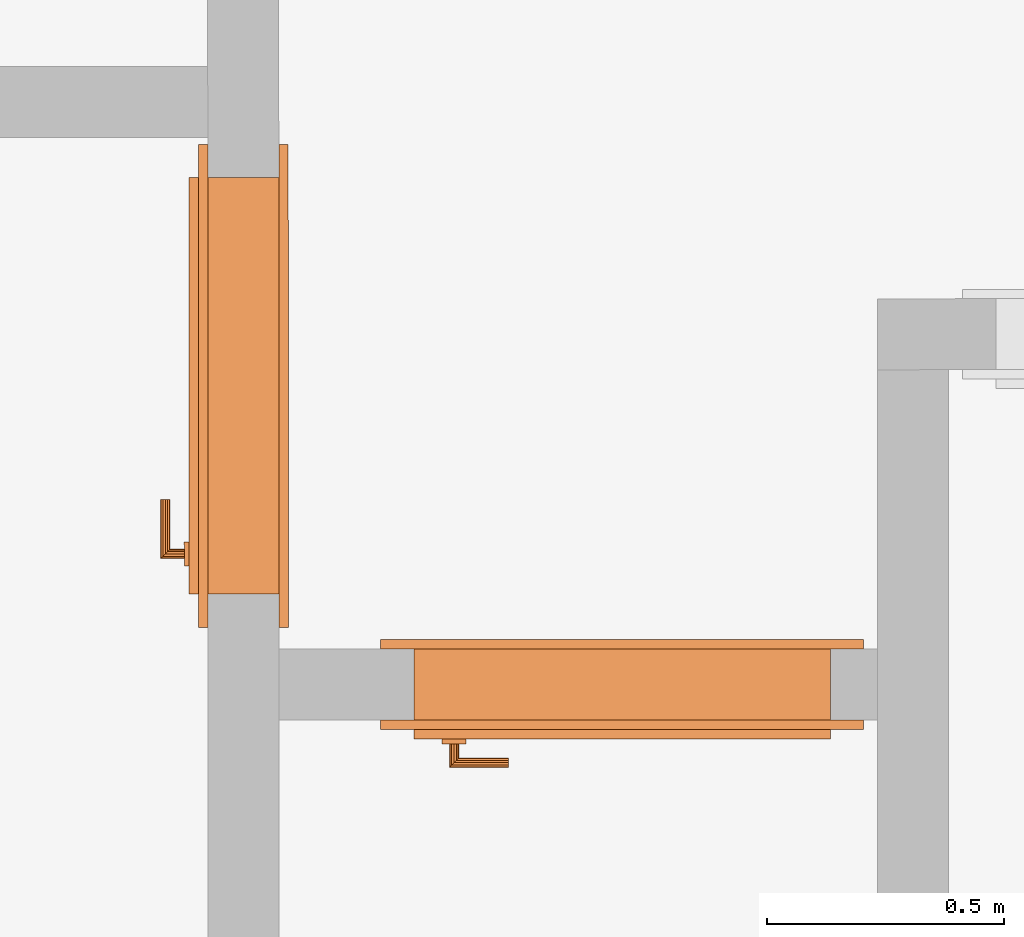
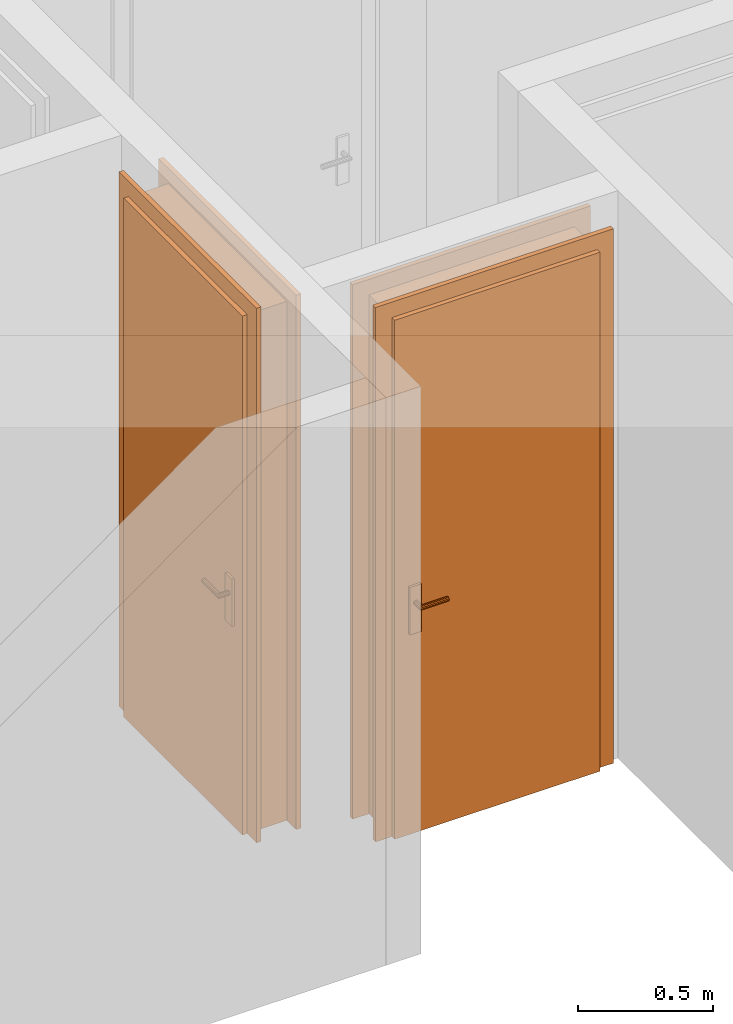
# One storey, part 4 of 9: 2 proxies.
"""IFC2X3 building model written with IfcOpenShell, lengths in metres."""

from ifc_helpers import new_model, entity, si_unit, converted_unit, derived_unit, direction, frame, origin, origin_with_axes, place, context, subcontext, project, spatial, faceted_brep, source, transform, mapped, element, save


model = new_model("IFC2X3")

# Units and contexts
model_context = context("Model", 3, precision=1e-05, world=origin(), true_north=direction((0.772621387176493, -0.634867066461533)))
body_context = subcontext(model_context, "Body", "Model", "MODEL_VIEW")
ifc_project = project(units=[si_unit("LENGTHUNIT", "METRE"), si_unit("AREAUNIT", "SQUARE_METRE"), si_unit("VOLUMEUNIT", "CUBIC_METRE"), si_unit("MASSUNIT", "GRAM", prefix="KILO"), converted_unit("PLANEANGLEUNIT", "DEGREE", entity("IfcPlaneAngleMeasure", 0.0174532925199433), si_unit("PLANEANGLEUNIT", "RADIAN"), dimensions=[0, 0, 0, 0, 0, 0, 0]), derived_unit("THERMALTRANSMITTANCEUNIT", [(si_unit("POWERUNIT", "WATT"), 1), (si_unit("THERMODYNAMICTEMPERATUREUNIT", "KELVIN"), -1), (si_unit("LENGTHUNIT", "METRE"), -2)]), derived_unit("VOLUMETRICFLOWRATEUNIT", [(si_unit("LENGTHUNIT", "METRE"), 3), (converted_unit("TIMEUNIT", "hour", entity("IfcTimeMeasure", 3600.0), si_unit("TIMEUNIT", "SECOND"), dimensions=[0, 0, 1, 0, 0, 0, 0]), -1), (si_unit("LENGTHUNIT", "METRE"), -1)])], contexts=[model_context])

# Site, building, storey
site_placement = place(None, origin())
site = spatial("IfcSite", under=ifc_project, at=site_placement, Name="Modelle auf dem Nullpunkt", CompositionType="ELEMENT")
building_placement = place(site_placement, origin())
building = spatial("IfcBuilding", under=site, at=building_placement, Name="I", CompositionType="ELEMENT")
storey_placement = place(building_placement, origin())
storey = spatial("IfcBuildingStorey", under=building, at=storey_placement, Name="1.OG", CompositionType="ELEMENT", Elevation=0.0)

# Proxies
shared_shape_1 = source(origin_with_axes(), body_context, "Body", "Brep", [
    faceted_brep([(0.950000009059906, 0.19000000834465, 2.35), (0.930000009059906, 0.19000000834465, 2.35), (0.930000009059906, 0.19000000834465, 0.0), (0.950000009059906, 0.19000000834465, 0.0), (0.950000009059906, 0.0, 0.0), (0.930000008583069, 0.0, 0.0), (0.930000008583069, 0.0, 2.35), (0.950000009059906, 0.0, 2.35)], [[[0, 1, 2, 3]], [[4, 5, 6, 7]], [[3, 4, 7, 0]], [[2, 5, 4, 3]], [[1, 6, 5, 2]], [[0, 7, 6, 1]]], orient=[[False], [False], [False], [False], [False], [False]]),
    faceted_brep([(0.950000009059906, 0.19000000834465, 2.42), (0.950000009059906, 0.19000000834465, 0.0), (1.02000000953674, 0.19000000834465, 0.0), (1.02000000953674, 0.19000000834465, 2.42), (0.950000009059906, 0.170000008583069, 0.0), (0.950000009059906, 0.170000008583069, 2.42), (1.02000000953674, 0.170000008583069, 2.42), (1.02000000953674, 0.170000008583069, 0.0)], [[[0, 1, 2, 3]], [[4, 5, 6, 7]], [[1, 0, 5, 4]], [[2, 1, 4, 7]], [[3, 2, 7, 6]], [[0, 3, 6, 5]]], orient=[[False], [False], [False], [False], [False], [False]]),
    faceted_brep([(0.950000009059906, 0.0199999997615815, 2.42), (0.950000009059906, 0.0199999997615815, 0.0), (1.02000001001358, 0.0199999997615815, 0.0), (1.02000001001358, 0.0199999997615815, 2.42), (0.950000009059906, 0.0, 0.0), (0.950000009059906, 0.0, 2.42), (1.02000000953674, 0.0, 2.42), (1.02000000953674, 0.0, 0.0)], [[[0, 1, 2, 3]], [[4, 5, 6, 7]], [[1, 0, 5, 4]], [[2, 1, 4, 7]], [[3, 2, 7, 6]], [[0, 3, 6, 5]]], orient=[[False], [False], [False], [False], [False], [False]]),
    faceted_brep([(0.0900000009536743, 0.19000000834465, 2.35), (0.0700000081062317, 0.19000000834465, 2.35), (0.0700000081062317, 0.19000000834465, 0.0), (0.0900000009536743, 0.19000000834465, 0.0), (0.0900000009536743, 0.0, 0.0), (0.0700000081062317, 0.0, 0.0), (0.0700000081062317, 0.0, 2.35), (0.0900000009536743, 0.0, 2.35)], [[[0, 1, 2, 3]], [[4, 5, 6, 7]], [[3, 4, 7, 0]], [[2, 5, 4, 3]], [[1, 6, 5, 2]], [[0, 7, 6, 1]]], orient=[[False], [False], [False], [False], [False], [False]]),
    faceted_brep([(0.0700000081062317, 0.19000000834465, 2.42), (0.0, 0.19000000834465, 2.42), (0.0, 0.19000000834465, 0.0), (0.0700000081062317, 0.19000000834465, 0.0), (0.0700000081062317, 0.170000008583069, 0.0), (0.0, 0.170000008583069, 0.0), (0.0, 0.170000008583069, 2.42), (0.0700000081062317, 0.170000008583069, 2.42)], [[[0, 1, 2, 3]], [[4, 5, 6, 7]], [[3, 4, 7, 0]], [[2, 5, 4, 3]], [[1, 6, 5, 2]], [[0, 7, 6, 1]]], orient=[[False], [False], [False], [False], [False], [False]]),
    faceted_brep([(0.0700000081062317, 0.0199999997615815, 2.42), (0.0, 0.0199999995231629, 2.42), (0.0, 0.0199999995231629, 0.0), (0.0700000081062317, 0.0199999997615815, 0.0), (0.0700000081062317, 0.0, 0.0), (0.0, 0.0, 0.0), (0.0, 0.0, 2.42), (0.0700000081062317, 0.0, 2.42)], [[[0, 1, 2, 3]], [[4, 5, 6, 7]], [[3, 4, 7, 0]], [[2, 5, 4, 3]], [[1, 6, 5, 2]], [[0, 7, 6, 1]]], orient=[[False], [False], [False], [False], [False], [False]]),
    faceted_brep([(0.930000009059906, 0.19000000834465, 2.35), (0.0900000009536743, 0.19000000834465, 2.35), (0.0900000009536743, 0.19000000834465, 2.33), (0.930000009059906, 0.19000000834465, 2.33), (0.930000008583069, 0.0, 2.33), (0.0900000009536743, 0.0, 2.33), (0.0900000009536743, 0.0, 2.35), (0.930000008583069, 0.0, 2.35)], [[[0, 1, 2, 3]], [[4, 5, 6, 7]], [[3, 4, 7, 0]], [[2, 5, 4, 3]], [[1, 6, 5, 2]], [[0, 7, 6, 1]]], orient=[[False], [False], [False], [False], [False], [False]]),
    faceted_brep([(0.950000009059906, 0.19000000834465, 2.42), (0.0700000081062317, 0.19000000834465, 2.42), (0.0700000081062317, 0.19000000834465, 2.35), (0.950000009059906, 0.19000000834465, 2.35), (0.950000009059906, 0.170000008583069, 2.35), (0.0700000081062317, 0.170000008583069, 2.35), (0.0700000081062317, 0.170000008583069, 2.42), (0.950000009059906, 0.170000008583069, 2.42)], [[[0, 1, 2, 3]], [[4, 5, 6, 7]], [[3, 4, 7, 0]], [[2, 5, 4, 3]], [[1, 6, 5, 2]], [[0, 7, 6, 1]]], orient=[[False], [False], [False], [False], [False], [False]]),
    faceted_brep([(0.950000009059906, 0.0199999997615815, 2.42), (0.0700000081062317, 0.0199999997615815, 2.42), (0.0700000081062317, 0.0199999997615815, 2.35), (0.950000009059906, 0.0199999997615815, 2.35), (0.950000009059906, 0.0, 2.35), (0.0700000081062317, 0.0, 2.35), (0.0700000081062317, 0.0, 2.42), (0.950000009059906, 0.0, 2.42)], [[[0, 1, 2, 3]], [[4, 5, 6, 7]], [[3, 4, 7, 0]], [[2, 5, 4, 3]], [[1, 6, 5, 2]], [[0, 7, 6, 1]]], orient=[[False], [False], [False], [False], [False], [False]]),
    faceted_brep([(0.950000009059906, 0.210000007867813, 2.35), (0.0700000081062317, 0.210000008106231, 2.35), (0.0700000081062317, 0.210000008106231, 0.0), (0.950000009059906, 0.210000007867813, 0.0), (0.950000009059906, 0.170000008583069, 0.0), (0.0700000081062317, 0.170000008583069, 0.0), (0.0700000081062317, 0.170000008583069, 2.35), (0.950000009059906, 0.170000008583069, 2.35)], [[[0, 1, 2, 3]], [[4, 5, 6, 7]], [[3, 4, 7, 0]], [[2, 5, 4, 3]], [[1, 6, 5, 2]], [[0, 7, 6, 1]]], orient=[[False], [False], [False], [False], [False], [False]]),
    faceted_brep([(0.890000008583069, 0.170000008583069, 1.125), (0.840000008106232, 0.170000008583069, 1.125), (0.840000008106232, 0.170000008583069, 0.91), (0.890000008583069, 0.170000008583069, 0.91), (0.890000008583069, 0.160000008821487, 0.91), (0.840000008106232, 0.160000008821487, 0.91), (0.840000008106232, 0.160000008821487, 1.125), (0.890000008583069, 0.160000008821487, 1.125)], [[[0, 1, 2, 3]], [[4, 5, 6, 7]], [[3, 4, 7, 0]], [[2, 5, 4, 3]], [[1, 6, 5, 2]], [[0, 7, 6, 1]]], orient=[[False], [False], [False], [False], [False], [False]]),
    faceted_brep([(0.865000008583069, 0.160000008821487, 1.06), (0.860000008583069, 0.160000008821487, 1.05866025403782), (0.856339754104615, 0.160000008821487, 1.055), (0.855000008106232, 0.160000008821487, 1.05), (0.856339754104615, 0.160000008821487, 1.045), (0.860000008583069, 0.160000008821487, 1.04133974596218), (0.865000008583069, 0.160000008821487, 1.04), (0.870000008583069, 0.160000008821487, 1.04133974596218), (0.873660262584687, 0.160000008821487, 1.045), (0.875000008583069, 0.160000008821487, 1.05), (0.873660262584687, 0.160000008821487, 1.055), (0.870000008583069, 0.160000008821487, 1.05866025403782), (0.870000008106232, 0.115000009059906, 1.05866025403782), (0.865000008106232, 0.120000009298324, 1.06), (0.873660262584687, 0.111339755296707, 1.055), (0.875000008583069, 0.110000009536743, 1.05), (0.873660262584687, 0.111339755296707, 1.045), (0.870000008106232, 0.115000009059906, 1.04133974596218), (0.865000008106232, 0.120000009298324, 1.04), (0.860000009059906, 0.125000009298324, 1.04133974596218), (0.856339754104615, 0.128660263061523, 1.045), (0.855000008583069, 0.130000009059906, 1.05), (0.856339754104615, 0.128660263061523, 1.055), (0.860000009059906, 0.125000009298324, 1.05866025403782), (0.750000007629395, 0.120000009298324, 1.06), (0.750000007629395, 0.115000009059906, 1.05866025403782), (0.750000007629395, 0.111339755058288, 1.055), (0.750000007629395, 0.110000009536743, 1.05), (0.750000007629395, 0.111339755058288, 1.045), (0.750000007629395, 0.115000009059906, 1.04133974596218), (0.750000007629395, 0.120000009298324, 1.04), (0.750000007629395, 0.125000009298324, 1.04133974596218), (0.750000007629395, 0.128660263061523, 1.045), (0.750000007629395, 0.130000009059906, 1.05), (0.750000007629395, 0.128660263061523, 1.055), (0.750000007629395, 0.125000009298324, 1.05866025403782)], [[[0, 1, 2, 3, 4, 5, 6, 7, 8, 9, 10, 11]], [[0, 11, 12, 13]], [[11, 10, 14, 12]], [[10, 9, 15, 14]], [[9, 8, 16, 15]], [[8, 7, 17, 16]], [[7, 6, 18, 17]], [[6, 5, 19, 18]], [[5, 4, 20, 19]], [[4, 3, 21, 20]], [[3, 2, 22, 21]], [[2, 1, 23, 22]], [[1, 0, 13, 23]], [[24, 25, 26, 27, 28, 29, 30, 31, 32, 33, 34, 35]], [[13, 12, 25, 24]], [[12, 14, 26, 25]], [[14, 15, 27, 26]], [[15, 16, 28, 27]], [[16, 17, 29, 28]], [[17, 18, 30, 29]], [[18, 19, 31, 30]], [[19, 20, 32, 31]], [[20, 21, 33, 32]], [[21, 22, 34, 33]], [[22, 23, 35, 34]], [[23, 13, 24, 35]]], orient=[[False], [False], [False], [False], [False], [False], [False], [False], [False], [False], [False], [False], [False], [False], [False], [False], [False], [False], [False], [False], [False], [False], [False], [False], [False], [False]]),
    faceted_brep([(0.890000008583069, 0.210000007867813, 1.125), (0.890000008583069, 0.210000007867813, 0.91), (0.840000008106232, 0.210000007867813, 0.91), (0.840000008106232, 0.210000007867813, 1.125), (0.890000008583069, 0.220000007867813, 0.91), (0.890000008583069, 0.220000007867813, 1.125), (0.840000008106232, 0.220000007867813, 1.125), (0.840000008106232, 0.220000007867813, 0.91)], [[[0, 1, 2, 3]], [[4, 5, 6, 7]], [[1, 0, 5, 4]], [[2, 1, 4, 7]], [[3, 2, 7, 6]], [[0, 3, 6, 5]]], orient=[[False], [False], [False], [False], [False], [False]]),
    faceted_brep([(0.865000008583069, 0.220000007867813, 1.06), (0.870000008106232, 0.220000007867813, 1.05866025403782), (0.873660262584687, 0.220000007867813, 1.055), (0.875000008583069, 0.220000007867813, 1.05), (0.873660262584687, 0.220000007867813, 1.045), (0.870000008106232, 0.220000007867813, 1.04133974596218), (0.865000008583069, 0.220000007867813, 1.04), (0.860000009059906, 0.220000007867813, 1.04133974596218), (0.856339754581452, 0.220000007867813, 1.045), (0.855000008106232, 0.220000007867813, 1.05), (0.856339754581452, 0.220000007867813, 1.055), (0.860000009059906, 0.220000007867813, 1.05866025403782), (0.865000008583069, 0.260000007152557, 1.06), (0.870000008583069, 0.265000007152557, 1.05866025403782), (0.873660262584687, 0.268660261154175, 1.055), (0.875000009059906, 0.270000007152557, 1.05), (0.873660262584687, 0.268660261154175, 1.045), (0.870000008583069, 0.265000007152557, 1.04133974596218), (0.865000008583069, 0.260000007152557, 1.04), (0.860000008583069, 0.255000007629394, 1.04133974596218), (0.856339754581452, 0.251339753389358, 1.045), (0.855000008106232, 0.250000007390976, 1.05), (0.856339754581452, 0.251339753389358, 1.055), (0.860000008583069, 0.255000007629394, 1.05866025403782), (0.750000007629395, 0.260000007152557, 1.06), (0.750000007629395, 0.255000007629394, 1.05866025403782), (0.750000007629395, 0.251339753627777, 1.055), (0.750000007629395, 0.250000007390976, 1.05), (0.750000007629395, 0.251339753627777, 1.045), (0.750000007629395, 0.255000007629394, 1.04133974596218), (0.750000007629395, 0.260000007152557, 1.04), (0.750000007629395, 0.265000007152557, 1.04133974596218), (0.750000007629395, 0.268660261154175, 1.045), (0.750000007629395, 0.270000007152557, 1.05), (0.750000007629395, 0.268660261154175, 1.055), (0.750000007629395, 0.265000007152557, 1.05866025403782)], [[[0, 1, 2, 3, 4, 5, 6, 7, 8, 9, 10, 11]], [[0, 12, 13, 1]], [[1, 13, 14, 2]], [[2, 14, 15, 3]], [[3, 15, 16, 4]], [[4, 16, 17, 5]], [[5, 17, 18, 6]], [[6, 18, 19, 7]], [[7, 19, 20, 8]], [[8, 20, 21, 9]], [[9, 21, 22, 10]], [[10, 22, 23, 11]], [[11, 23, 12, 0]], [[24, 25, 26, 27, 28, 29, 30, 31, 32, 33, 34, 35]], [[12, 24, 35, 13]], [[13, 35, 34, 14]], [[14, 34, 33, 15]], [[15, 33, 32, 16]], [[16, 32, 31, 17]], [[17, 31, 30, 18]], [[18, 30, 29, 19]], [[19, 29, 28, 20]], [[20, 28, 27, 21]], [[21, 27, 26, 22]], [[22, 26, 25, 23]], [[23, 25, 24, 12]]], orient=[[False], [False], [False], [False], [False], [False], [False], [False], [False], [False], [False], [False], [False], [False], [False], [False], [False], [False], [False], [False], [False], [False], [False], [False], [False], [False]]),
])
proxy_1_placement = place(storey_placement, frame((33.5238810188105, -3.33191685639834, 438.82), z_axis=(0.0, 0.0, 1.0), x_axis=(-0.999999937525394, -0.000353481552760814, 0.0)))
element("IfcBuildingElementProxy", 1, at=proxy_1_placement, inside=storey, Name="1flg Weiß UZ außen", context=body_context, shape_type="MappedRepresentation", body=[
    mapped(shared_shape_1, transform((0.0, 0.0, 0.0), x_axis=(1.0, 0.0, 0.0), y_axis=(0.0, 1.0, 0.0), z_axis=(0.0, 0.0, 1.0), scale=1.0)),
])
shared_shape_2 = source(origin_with_axes(), body_context, "Body", "Brep", [
    faceted_brep([(0.0700000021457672, 0.190000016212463, 2.35), (0.0700000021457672, 0.190000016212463, 0.0), (0.0900000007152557, 0.190000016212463, 0.0), (0.0900000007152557, 0.190000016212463, 2.35), (0.0700000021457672, 0.0, 0.0), (0.0700000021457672, 0.0, 2.35), (0.0900000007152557, 0.0, 2.35), (0.0900000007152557, 0.0, 0.0)], [[[0, 1, 2, 3]], [[4, 5, 6, 7]], [[1, 0, 5, 4]], [[2, 1, 4, 7]], [[3, 2, 7, 6]], [[0, 3, 6, 5]]], orient=[[False], [False], [False], [False], [False], [False]]),
    faceted_brep([(0.0700000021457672, 0.190000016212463, 2.42), (0.0, 0.1900000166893, 2.42), (0.0, 0.1900000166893, 0.0), (0.0700000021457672, 0.190000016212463, 0.0), (0.0700000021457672, 0.170000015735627, 0.0), (0.0, 0.170000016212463, 0.0), (0.0, 0.170000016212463, 2.42), (0.0700000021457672, 0.170000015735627, 2.42)], [[[0, 1, 2, 3]], [[4, 5, 6, 7]], [[3, 4, 7, 0]], [[2, 5, 4, 3]], [[1, 6, 5, 2]], [[0, 7, 6, 1]]], orient=[[False], [False], [False], [False], [False], [False]]),
    faceted_brep([(0.0700000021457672, 0.0200000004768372, 2.42), (0.0, 0.0200000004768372, 2.42), (0.0, 0.0200000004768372, 0.0), (0.0700000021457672, 0.0200000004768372, 0.0), (0.0700000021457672, 0.0, 0.0), (0.0, 0.0, 0.0), (0.0, 0.0, 2.42), (0.0700000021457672, 0.0, 2.42)], [[[0, 1, 2, 3]], [[4, 5, 6, 7]], [[3, 4, 7, 0]], [[2, 5, 4, 3]], [[1, 6, 5, 2]], [[0, 7, 6, 1]]], orient=[[False], [False], [False], [False], [False], [False]]),
    faceted_brep([(0.93000001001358, 0.1900000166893, 2.35), (0.93000001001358, 0.1900000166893, 0.0), (0.950000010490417, 0.1900000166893, 0.0), (0.950000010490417, 0.1900000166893, 2.35), (0.93000001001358, 0.0, 0.0), (0.93000001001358, 0.0, 2.35), (0.950000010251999, 0.0, 2.35), (0.950000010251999, 0.0, 0.0)], [[[0, 1, 2, 3]], [[4, 5, 6, 7]], [[1, 0, 5, 4]], [[2, 1, 4, 7]], [[3, 2, 7, 6]], [[0, 3, 6, 5]]], orient=[[False], [False], [False], [False], [False], [False]]),
    faceted_brep([(0.950000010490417, 0.1900000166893, 2.42), (0.950000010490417, 0.1900000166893, 0.0), (1.02000001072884, 0.190000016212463, 0.0), (1.02000001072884, 0.190000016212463, 2.42), (0.950000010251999, 0.170000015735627, 0.0), (0.950000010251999, 0.170000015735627, 2.42), (1.02000001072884, 0.170000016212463, 2.42), (1.02000001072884, 0.170000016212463, 0.0)], [[[0, 1, 2, 3]], [[4, 5, 6, 7]], [[1, 0, 5, 4]], [[2, 1, 4, 7]], [[3, 2, 7, 6]], [[0, 3, 6, 5]]], orient=[[False], [False], [False], [False], [False], [False]]),
    faceted_brep([(0.950000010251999, 0.0200000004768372, 2.42), (0.950000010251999, 0.0200000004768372, 0.0), (1.02000001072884, 0.0200000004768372, 0.0), (1.02000001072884, 0.0200000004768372, 2.42), (0.950000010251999, 0.0, 0.0), (0.950000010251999, 0.0, 2.42), (1.02000001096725, 0.0, 2.42), (1.02000001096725, 0.0, 0.0)], [[[0, 1, 2, 3]], [[4, 5, 6, 7]], [[1, 0, 5, 4]], [[2, 1, 4, 7]], [[3, 2, 7, 6]], [[0, 3, 6, 5]]], orient=[[False], [False], [False], [False], [False], [False]]),
    faceted_brep([(0.0900000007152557, 0.190000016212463, 2.35), (0.0900000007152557, 0.190000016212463, 2.33), (0.93000001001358, 0.1900000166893, 2.33), (0.93000001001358, 0.1900000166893, 2.35), (0.0900000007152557, 0.0, 2.33), (0.0900000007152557, 0.0, 2.35), (0.93000001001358, 0.0, 2.35), (0.93000001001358, 0.0, 2.33)], [[[0, 1, 2, 3]], [[4, 5, 6, 7]], [[1, 0, 5, 4]], [[2, 1, 4, 7]], [[3, 2, 7, 6]], [[0, 3, 6, 5]]], orient=[[False], [False], [False], [False], [False], [False]]),
    faceted_brep([(0.0700000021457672, 0.190000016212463, 2.42), (0.0700000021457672, 0.190000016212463, 2.35), (0.950000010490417, 0.1900000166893, 2.35), (0.950000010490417, 0.1900000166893, 2.42), (0.0700000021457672, 0.170000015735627, 2.35), (0.0700000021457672, 0.170000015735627, 2.42), (0.950000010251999, 0.170000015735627, 2.42), (0.950000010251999, 0.170000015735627, 2.35)], [[[0, 1, 2, 3]], [[4, 5, 6, 7]], [[1, 0, 5, 4]], [[2, 1, 4, 7]], [[3, 2, 7, 6]], [[0, 3, 6, 5]]], orient=[[False], [False], [False], [False], [False], [False]]),
    faceted_brep([(0.0700000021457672, 0.0200000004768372, 2.42), (0.0700000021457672, 0.0200000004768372, 2.35), (0.950000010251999, 0.0200000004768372, 2.35), (0.950000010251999, 0.0200000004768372, 2.42), (0.0700000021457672, 0.0, 2.35), (0.0700000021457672, 0.0, 2.42), (0.950000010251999, 0.0, 2.42), (0.950000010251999, 0.0, 2.35)], [[[0, 1, 2, 3]], [[4, 5, 6, 7]], [[1, 0, 5, 4]], [[2, 1, 4, 7]], [[3, 2, 7, 6]], [[0, 3, 6, 5]]], orient=[[False], [False], [False], [False], [False], [False]]),
    faceted_brep([(0.0700000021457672, 0.210000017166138, 2.35), (0.0700000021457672, 0.210000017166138, 0.0), (0.950000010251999, 0.210000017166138, 0.0), (0.950000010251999, 0.210000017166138, 2.35), (0.0700000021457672, 0.170000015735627, 0.0), (0.0700000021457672, 0.170000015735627, 2.35), (0.950000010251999, 0.170000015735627, 2.35), (0.950000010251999, 0.170000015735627, 0.0)], [[[0, 1, 2, 3]], [[4, 5, 6, 7]], [[1, 0, 5, 4]], [[2, 1, 4, 7]], [[3, 2, 7, 6]], [[0, 3, 6, 5]]], orient=[[False], [False], [False], [False], [False], [False]]),
    faceted_brep([(0.130000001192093, 0.170000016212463, 1.125), (0.130000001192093, 0.170000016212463, 0.91), (0.180000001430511, 0.170000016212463, 0.91), (0.180000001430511, 0.170000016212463, 1.125), (0.130000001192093, 0.16000001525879, 0.91), (0.130000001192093, 0.16000001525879, 1.125), (0.180000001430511, 0.160000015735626, 1.125), (0.180000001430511, 0.160000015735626, 0.91)], [[[0, 1, 2, 3]], [[4, 5, 6, 7]], [[1, 0, 5, 4]], [[2, 1, 4, 7]], [[3, 2, 7, 6]], [[0, 3, 6, 5]]], orient=[[False], [False], [False], [False], [False], [False]]),
    faceted_brep([(0.155000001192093, 0.160000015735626, 1.06), (0.150000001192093, 0.16000001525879, 1.05866025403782), (0.146339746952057, 0.160000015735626, 1.055), (0.145000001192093, 0.160000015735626, 1.05), (0.146339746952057, 0.160000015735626, 1.045), (0.150000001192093, 0.16000001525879, 1.04133974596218), (0.155000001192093, 0.160000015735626, 1.04), (0.160000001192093, 0.160000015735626, 1.04133974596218), (0.163660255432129, 0.160000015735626, 1.045), (0.165000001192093, 0.160000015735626, 1.05), (0.163660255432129, 0.160000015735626, 1.055), (0.160000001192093, 0.160000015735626, 1.05866025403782), (0.155000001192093, 0.120000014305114, 1.06), (0.150000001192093, 0.115000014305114, 1.05866025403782), (0.146339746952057, 0.111339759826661, 1.055), (0.145000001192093, 0.110000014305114, 1.05), (0.146339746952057, 0.111339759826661, 1.045), (0.150000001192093, 0.115000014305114, 1.04133974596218), (0.155000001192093, 0.120000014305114, 1.04), (0.160000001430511, 0.125000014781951, 1.04133974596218), (0.163660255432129, 0.12866026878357, 1.045), (0.165000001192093, 0.130000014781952, 1.05), (0.163660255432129, 0.12866026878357, 1.055), (0.160000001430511, 0.125000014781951, 1.05866025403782), (0.270000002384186, 0.120000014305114, 1.06), (0.270000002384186, 0.125000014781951, 1.05866025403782), (0.270000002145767, 0.12866026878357, 1.055), (0.270000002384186, 0.130000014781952, 1.05), (0.270000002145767, 0.12866026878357, 1.045), (0.270000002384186, 0.125000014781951, 1.04133974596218), (0.270000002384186, 0.120000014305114, 1.04), (0.270000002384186, 0.115000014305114, 1.04133974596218), (0.270000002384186, 0.111339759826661, 1.045), (0.270000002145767, 0.110000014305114, 1.05), (0.270000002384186, 0.111339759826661, 1.055), (0.270000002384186, 0.115000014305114, 1.05866025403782)], [[[0, 1, 2, 3, 4, 5, 6, 7, 8, 9, 10, 11]], [[0, 12, 13, 1]], [[1, 13, 14, 2]], [[2, 14, 15, 3]], [[3, 15, 16, 4]], [[4, 16, 17, 5]], [[5, 17, 18, 6]], [[6, 18, 19, 7]], [[7, 19, 20, 8]], [[8, 20, 21, 9]], [[9, 21, 22, 10]], [[10, 22, 23, 11]], [[11, 23, 12, 0]], [[24, 25, 26, 27, 28, 29, 30, 31, 32, 33, 34, 35]], [[12, 24, 35, 13]], [[13, 35, 34, 14]], [[14, 34, 33, 15]], [[15, 33, 32, 16]], [[16, 32, 31, 17]], [[17, 31, 30, 18]], [[18, 30, 29, 19]], [[19, 29, 28, 20]], [[20, 28, 27, 21]], [[21, 27, 26, 22]], [[22, 26, 25, 23]], [[23, 25, 24, 12]]], orient=[[False], [False], [False], [False], [False], [False], [False], [False], [False], [False], [False], [False], [False], [False], [False], [False], [False], [False], [False], [False], [False], [False], [False], [False], [False], [False]]),
    faceted_brep([(0.130000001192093, 0.210000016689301, 1.125), (0.180000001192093, 0.210000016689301, 1.125), (0.180000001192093, 0.210000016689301, 0.91), (0.130000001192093, 0.210000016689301, 0.91), (0.130000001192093, 0.220000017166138, 0.91), (0.180000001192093, 0.220000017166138, 0.91), (0.180000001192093, 0.220000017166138, 1.125), (0.130000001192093, 0.220000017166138, 1.125)], [[[0, 1, 2, 3]], [[4, 5, 6, 7]], [[3, 4, 7, 0]], [[2, 5, 4, 3]], [[1, 6, 5, 2]], [[0, 7, 6, 1]]], orient=[[False], [False], [False], [False], [False], [False]]),
    faceted_brep([(0.155000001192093, 0.220000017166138, 1.06), (0.160000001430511, 0.220000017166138, 1.05866025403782), (0.163660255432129, 0.220000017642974, 1.055), (0.165000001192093, 0.220000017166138, 1.05), (0.163660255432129, 0.220000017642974, 1.045), (0.160000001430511, 0.220000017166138, 1.04133974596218), (0.155000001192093, 0.220000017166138, 1.04), (0.150000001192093, 0.220000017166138, 1.04133974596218), (0.146339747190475, 0.220000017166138, 1.045), (0.145000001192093, 0.220000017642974, 1.05), (0.146339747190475, 0.220000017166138, 1.055), (0.150000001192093, 0.220000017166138, 1.05866025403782), (0.150000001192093, 0.26500001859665, 1.05866025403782), (0.155000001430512, 0.26000001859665, 1.06), (0.146339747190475, 0.268660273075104, 1.055), (0.145000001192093, 0.270000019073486, 1.05), (0.146339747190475, 0.268660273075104, 1.045), (0.150000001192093, 0.26500001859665, 1.04133974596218), (0.155000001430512, 0.26000001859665, 1.04), (0.160000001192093, 0.25500001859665, 1.04133974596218), (0.163660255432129, 0.251339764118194, 1.045), (0.165000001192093, 0.250000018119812, 1.05), (0.163660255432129, 0.251339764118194, 1.055), (0.160000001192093, 0.25500001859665, 1.05866025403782), (0.270000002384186, 0.26000001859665, 1.06), (0.270000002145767, 0.26500001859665, 1.05866025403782), (0.270000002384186, 0.268660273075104, 1.055), (0.270000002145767, 0.270000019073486, 1.05), (0.270000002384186, 0.268660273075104, 1.045), (0.270000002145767, 0.26500001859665, 1.04133974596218), (0.270000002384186, 0.26000001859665, 1.04), (0.270000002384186, 0.25500001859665, 1.04133974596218), (0.270000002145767, 0.251339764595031, 1.045), (0.270000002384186, 0.250000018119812, 1.05), (0.270000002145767, 0.251339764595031, 1.055), (0.270000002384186, 0.25500001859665, 1.05866025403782)], [[[0, 1, 2, 3, 4, 5, 6, 7, 8, 9, 10, 11]], [[0, 11, 12, 13]], [[11, 10, 14, 12]], [[10, 9, 15, 14]], [[9, 8, 16, 15]], [[8, 7, 17, 16]], [[7, 6, 18, 17]], [[6, 5, 19, 18]], [[5, 4, 20, 19]], [[4, 3, 21, 20]], [[3, 2, 22, 21]], [[2, 1, 23, 22]], [[1, 0, 13, 23]], [[24, 25, 26, 27, 28, 29, 30, 31, 32, 33, 34, 35]], [[13, 12, 25, 24]], [[12, 14, 26, 25]], [[14, 15, 27, 26]], [[15, 16, 28, 27]], [[16, 17, 29, 28]], [[17, 18, 30, 29]], [[18, 19, 31, 30]], [[19, 20, 32, 31]], [[20, 21, 33, 32]], [[21, 22, 34, 33]], [[22, 23, 35, 34]], [[23, 13, 24, 35]]], orient=[[False], [False], [False], [False], [False], [False], [False], [False], [False], [False], [False], [False], [False], [False], [False], [False], [False], [False], [False], [False], [False], [False], [False], [False], [False], [False]]),
])
proxy_2_placement = place(storey_placement, frame((32.3088717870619, -3.30606763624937, 438.82), z_axis=(0.0, 0.0, 1.0), x_axis=(-0.000353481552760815, 0.999999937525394, 0.0)))
element("IfcBuildingElementProxy", 2, at=proxy_2_placement, inside=storey, Name="1flg Weiß UZ außen", context=body_context, shape_type="MappedRepresentation", body=[
    mapped(shared_shape_2, transform((0.0, 0.0, 0.0), x_axis=(1.0, 0.0, 0.0), y_axis=(0.0, 1.0, 0.0), z_axis=(0.0, 0.0, 1.0), scale=1.0)),
])

save(model, "model.ifc")
